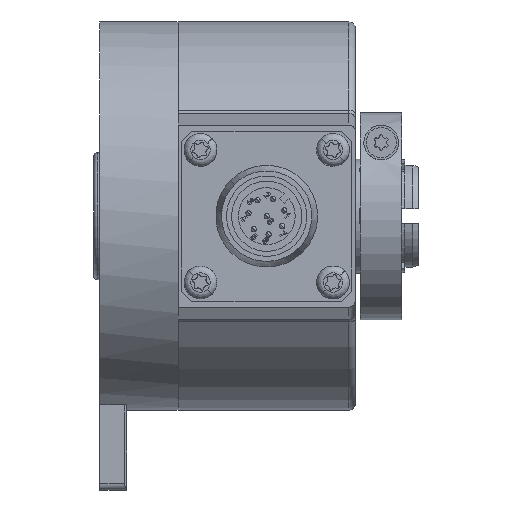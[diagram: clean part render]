
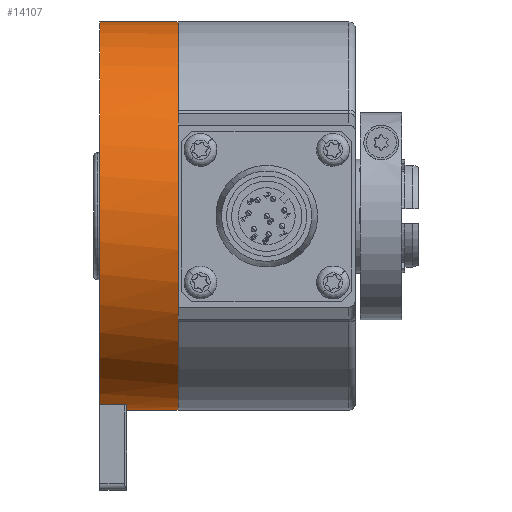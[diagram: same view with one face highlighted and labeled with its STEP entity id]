
A CAD part, front view. The second image highlights one B-rep face of the part: STEP entity #14107.
In plain terms, the highlighted cylindrical face has radius 29 mm (diameter 58 mm), a partial arc.
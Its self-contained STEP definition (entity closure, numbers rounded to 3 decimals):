
#182 = ORIENTED_EDGE ( 'NONE', *, *, #9480, .F. ) ;
#428 = CARTESIAN_POINT ( 'NONE',  ( 0.378, 25.423, 0. ) ) ;
#863 = ORIENTED_EDGE ( 'NONE', *, *, #8686, .T. ) ;
#894 = ORIENTED_EDGE ( 'NONE', *, *, #16710, .F. ) ;
#1218 = ORIENTED_EDGE ( 'NONE', *, *, #18729, .T. ) ;
#1241 = AXIS2_PLACEMENT_3D ( 'NONE', #428, #7231, #5558 ) ;
#1448 = CARTESIAN_POINT ( 'NONE',  ( 8.068, 25.423, -29. ) ) ;
#1632 = DIRECTION ( 'NONE',  ( 0., 0., -1. ) ) ;
#1726 = LINE ( 'NONE', #13993, #5276 ) ;
#2334 = EDGE_LOOP ( 'NONE', ( #894, #1218, #15574, #17543, #863, #182 ) ) ;
#2345 = AXIS2_PLACEMENT_3D ( 'NONE', #5303, #18921, #1632 ) ;
#2684 = CARTESIAN_POINT ( 'NONE',  ( -3.622, 25.423, 0. ) ) ;
#2945 = DIRECTION ( 'NONE',  ( -1., 0., 0. ) ) ;
#3321 = LINE ( 'NONE', #1448, #20731 ) ;
#3359 = CIRCLE ( 'NONE', #1241, 29. ) ;
#4238 = DIRECTION ( 'NONE',  ( 0., 0., -1. ) ) ;
#4799 = VERTEX_POINT ( 'NONE', #16904 ) ;
#5048 = VERTEX_POINT ( 'NONE', #6892 ) ;
#5146 = CIRCLE ( 'NONE', #8722, 29. ) ;
#5276 = VECTOR ( 'NONE', #13660, 1000. ) ;
#5303 = CARTESIAN_POINT ( 'NONE',  ( 8.068, 25.423, 0. ) ) ;
#5558 = DIRECTION ( 'NONE',  ( 0., 0., 1. ) ) ;
#5944 = VERTEX_POINT ( 'NONE', #11395 ) ;
#6301 = LINE ( 'NONE', #19904, #16039 ) ;
#6378 = VERTEX_POINT ( 'NONE', #18006 ) ;
#6892 = CARTESIAN_POINT ( 'NONE',  ( -3.622, 25.423, 29. ) ) ;
#6932 = VERTEX_POINT ( 'NONE', #20748 ) ;
#7231 = DIRECTION ( 'NONE',  ( 1., 0., 0. ) ) ;
#8354 = EDGE_CURVE ( 'NONE', #6378, #6932, #6301, .T. ) ;
#8686 = EDGE_CURVE ( 'NONE', #4799, #16567, #3321, .T. ) ;
#8722 = AXIS2_PLACEMENT_3D ( 'NONE', #14183, #10939, #16196 ) ;
#9480 = EDGE_CURVE ( 'NONE', #5944, #16567, #5146, .T. ) ;
#10111 = FACE_OUTER_BOUND ( 'NONE', #2334, .T. ) ;
#10558 = EDGE_CURVE ( 'NONE', #6378, #4799, #3359, .T. ) ;
#10686 = AXIS2_PLACEMENT_3D ( 'NONE', #2684, #12846, #4238 ) ;
#10939 = DIRECTION ( 'NONE',  ( 1., 0., 0. ) ) ;
#11395 = CARTESIAN_POINT ( 'NONE',  ( 8.068, 25.423, 29. ) ) ;
#12846 = DIRECTION ( 'NONE',  ( 1., 0., 0. ) ) ;
#13660 = DIRECTION ( 'NONE',  ( 1., 0., 0. ) ) ;
#13993 = CARTESIAN_POINT ( 'NONE',  ( 8.068, 25.423, 29. ) ) ;
#14107 = ADVANCED_FACE ( 'NONE', ( #10111 ), #22049, .T. ) ;
#14183 = CARTESIAN_POINT ( 'NONE',  ( 8.068, 25.423, 0. ) ) ;
#15574 = ORIENTED_EDGE ( 'NONE', *, *, #8354, .F. ) ;
#16039 = VECTOR ( 'NONE', #2945, 1000. ) ;
#16196 = DIRECTION ( 'NONE',  ( 0., 0., -1. ) ) ;
#16567 = VERTEX_POINT ( 'NONE', #18562 ) ;
#16710 = EDGE_CURVE ( 'NONE', #5048, #5944, #1726, .T. ) ;
#16904 = CARTESIAN_POINT ( 'NONE',  ( 0.378, 25.423, -29. ) ) ;
#17098 = CIRCLE ( 'NONE', #10686, 29. ) ;
#17543 = ORIENTED_EDGE ( 'NONE', *, *, #10558, .T. ) ;
#18006 = CARTESIAN_POINT ( 'NONE',  ( 0.378, 18.423, -28.142 ) ) ;
#18562 = CARTESIAN_POINT ( 'NONE',  ( 8.068, 25.423, -29. ) ) ;
#18729 = EDGE_CURVE ( 'NONE', #5048, #6932, #17098, .T. ) ;
#18921 = DIRECTION ( 'NONE',  ( 1., 0., 0. ) ) ;
#19904 = CARTESIAN_POINT ( 'NONE',  ( 8.068, 18.423, -28.142 ) ) ;
#20731 = VECTOR ( 'NONE', #21751, 1000. ) ;
#20748 = CARTESIAN_POINT ( 'NONE',  ( -3.622, 18.423, -28.142 ) ) ;
#21751 = DIRECTION ( 'NONE',  ( 1., 0., 0. ) ) ;
#22049 = CYLINDRICAL_SURFACE ( 'NONE', #2345, 29. ) ;
